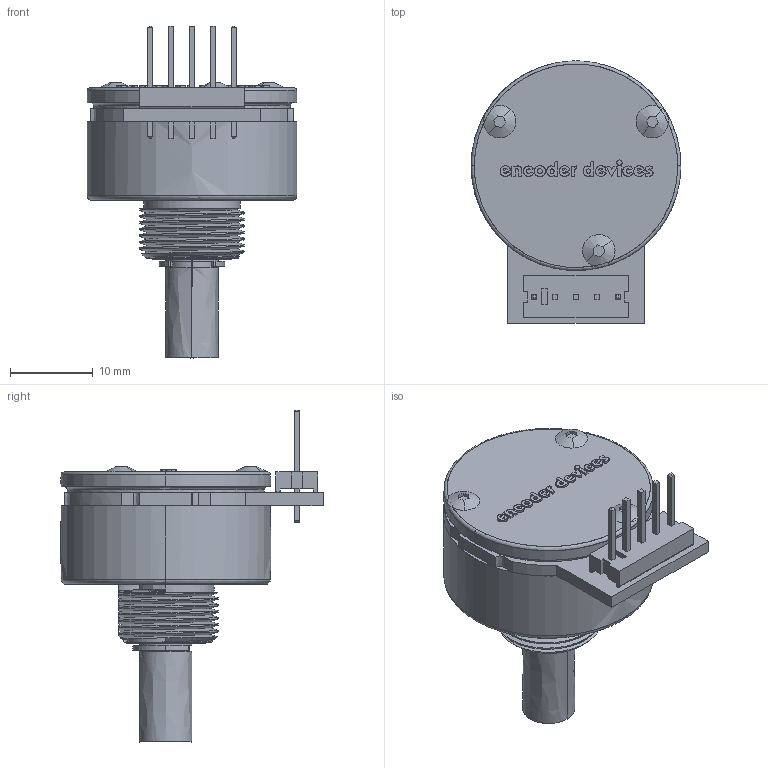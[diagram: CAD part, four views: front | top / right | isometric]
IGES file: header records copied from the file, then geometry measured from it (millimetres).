
Start section:  PTC IGES file: ed-12-xxx-h-n_shell.igs
Global section: file name: ed-12-xxx-h-n_shell.igs; native system: Pro/ENGINEER by Parametric Technology Corporation; preprocessor: 2002270; author: RChallman; organization: Unknown; date: 021226.141409; units: inch
Bounding box: 25.4 x 31.75 x 40.21 mm (x, y, z)
Surface area: 5212.1 mm2 (no closed solid volume)
Topology: 0 solids, 0 shells, 419 faces, 2413 edges, 2413 vertices
Faces by surface type: bspline 419
